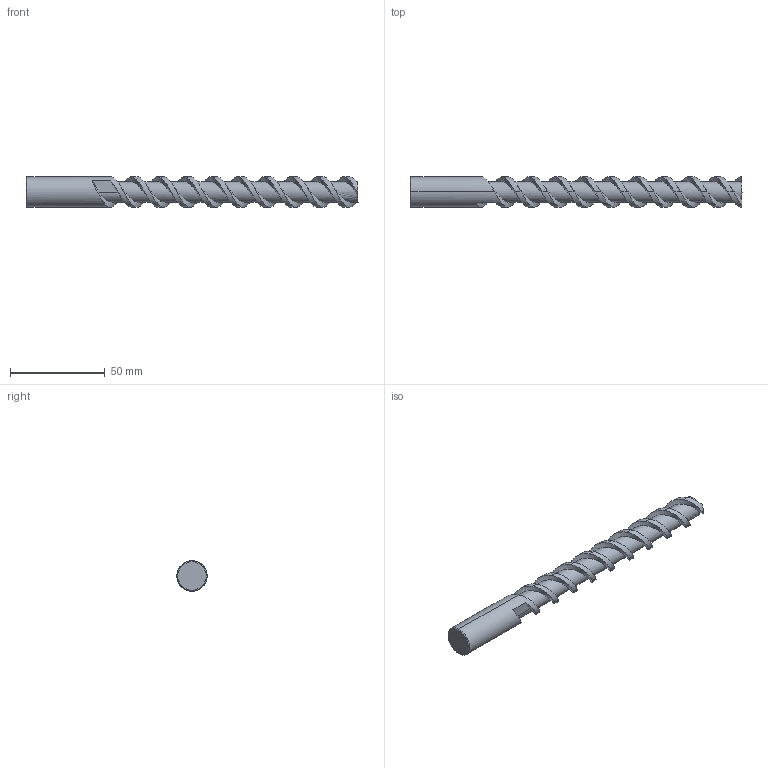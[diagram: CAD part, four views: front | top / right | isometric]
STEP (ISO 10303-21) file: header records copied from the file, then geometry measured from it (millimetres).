
FILE_DESCRIPTION (( 'STEP AP214' ), '1' );
FILE_NAME ('E2122_16_175.STEP', '2013-04-10T07:04:20', ( '' ), ( '' ), 'SwSTEP 2.0', 'SolidWorks 2013', '' );
FILE_SCHEMA (( 'AUTOMOTIVE_DESIGN' ));
Length unit declared in the file: millimetre
Products named in the file (1): E2122_16_175
Bounding box: 175 x 16 x 16 mm (x, y, z)
Volume: 24607.5 mm3; surface area: 9519.1 mm2
Topology: 1 solids, 1 shells, 36 faces, 96 edges, 62 vertices
Faces by surface type: cylinder 20, plane 8, bspline 6, cone 2
Entity records: 8285 total; most frequent: CARTESIAN_POINT 7138, ORIENTED_EDGE 192, DIRECTION 108, EDGE_CURVE 96, VERTEX_POINT 62, UNCERTAINTY_MEASURE_WITH_UNIT 39, MECHANICAL_DESIGN_GEOMETRIC_PRESENTATION_REPRESENTATION 38, PRESENTATION_STYLE_ASSIGNMENT 38
